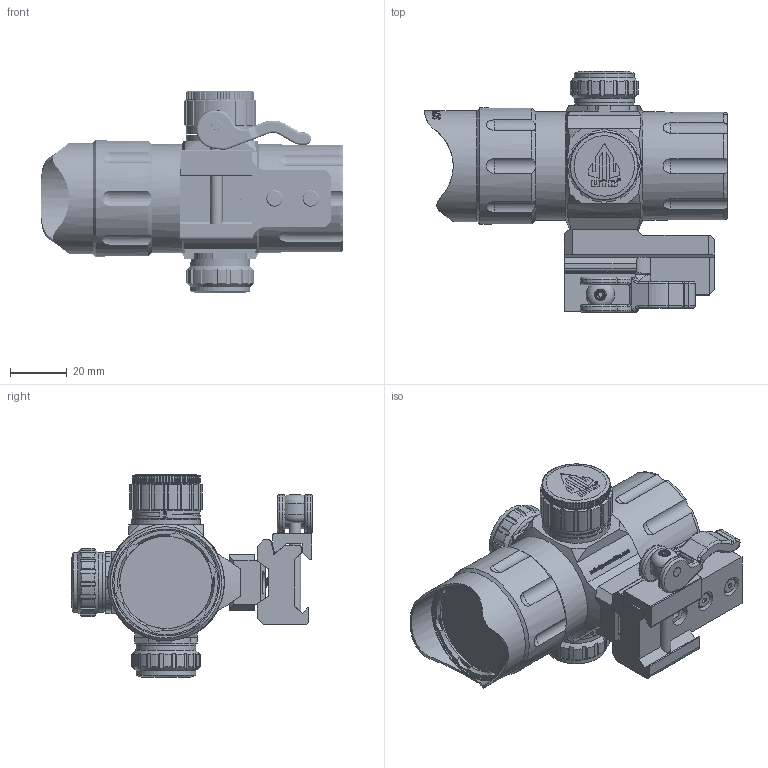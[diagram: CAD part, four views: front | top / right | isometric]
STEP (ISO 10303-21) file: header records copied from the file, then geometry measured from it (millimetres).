
FILE_DESCRIPTION (( 'STEP AP214' ), '1' );
FILE_NAME ('UTG RED DOT OPTIC.STEP', '2021-02-07T18:54:03', ( '' ), ( '' ), 'SwSTEP 2.0', 'SolidWorks 2020', '' );
FILE_SCHEMA (( 'AUTOMOTIVE_DESIGN' ));
Length unit declared in the file: inch
Products named in the file (13): SPEC SCREW; #6-32_SET SCREW_91301A007; UTG LENSE; RAIL BOTTOM; LEVER; RAIL UPPER; #6-32_LOW-PROFILE ALLOY STEEL SOCKET HEAD CAP SCREW_92220A143; KNOB UTG; UTG RED DOT OPTIC BODY; MOUNT BRKT; UTG RED DOT OPTIC; UTG FILTER LENSE; BATT KNOB
Assembly tree (17 placements, depth 2):
  UTG RED DOT OPTIC
    UTG RED DOT OPTIC BODY
    BATT KNOB
    KNOB UTG  x2
    RAIL UPPER
    RAIL BOTTOM
    MOUNT BRKT
    SPEC SCREW
    LEVER
    UTG LENSE  x2
    UTG FILTER LENSE
    #6-32_LOW-PROFILE ALLOY STEEL SOCKET HEAD CAP SCREW_92220A143  x4
    #6-32_SET SCREW_91301A007
Bounding box: 106.17 x 84.66 x 70.97 mm (x, y, z)
Volume: 85175.6 mm3; surface area: 55554.3 mm2
Topology: 20 solids, 20 shells, 2004 faces, 5441 edges, 3577 vertices
Faces by surface type: plane 918, bspline 540, cylinder 390, cone 89, torus 46, sphere 21
Full cylindrical faces by diameter (mm): 0.756 x1, 0.948 x1, 3.556 x4, 3.797 x5, 4.318 x2, 4.572 x1, 5.74 x4, 7.137 x5, 15.24 x1, 20.828 x2, 20.984 x1, 21.082 x4, 22.86 x1, 23.876 x2, 23.927 x1, 27.333 x1, 28.591 x1, 29.824 x1, 31.019 x1, 32.16 x1, 32.41 x1, 32.726 x2, 32.766 x2, 32.953 x2, 34.036 x5, 34.29 x4, 36.635 x1, 37.49 x1, 38.1 x2, 39.014 x1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
Entity records: 130594 total; most frequent: CARTESIAN_POINT 80606, ORIENTED_EDGE 9898, DIRECTION 6292, EDGE_CURVE 4949, VERTEX_POINT 3306, AXIS2_PLACEMENT_3D 2263, B_SPLINE_CURVE_WITH_KNOTS 2218, EDGE_LOOP 2065
